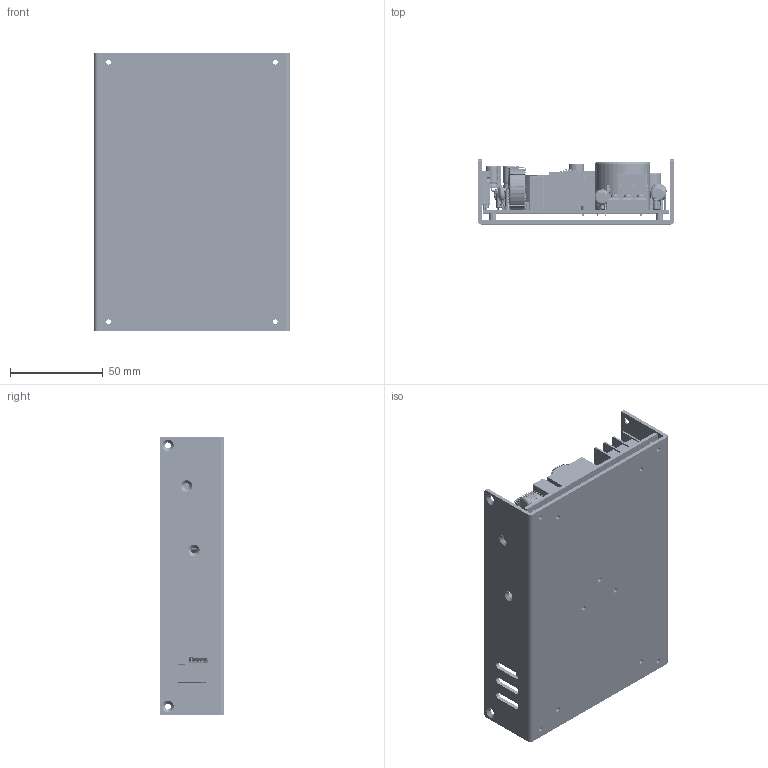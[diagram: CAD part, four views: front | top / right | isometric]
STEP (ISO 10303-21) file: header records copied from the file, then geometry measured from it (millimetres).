
FILE_DESCRIPTION (( 'STEP AP203' ), '1' );
FILE_NAME ('TXH240-U.STEP', '2012-10-17T12:03:48', ( '微软用户' ), ( '微软中国' ), 'SwSTEP 2.0', 'SolidWorks 2011', '' );
FILE_SCHEMA (( 'CONFIG_CONTROL_DESIGN' ));
Products named in the file (1): TXH240-U
Bounding box: 106 x 35 x 150 mm (x, y, z)
Volume: 203482.9 mm3; surface area: 149937.2 mm2
Topology: 154 solids, 155 shells, 5293 faces, 13597 edges, 8679 vertices
Faces by surface type: plane 2724, cylinder 1542, torus 811, bspline 110, cone 56, sphere 50
Entity records: 177683 total; most frequent: CARTESIAN_POINT 45636, DIRECTION 28062, ORIENTED_EDGE 27162, EDGE_CURVE 13581, AXIS2_PLACEMENT_3D 9863, VERTEX_POINT 8677, VECTOR 8336, LINE 8336
